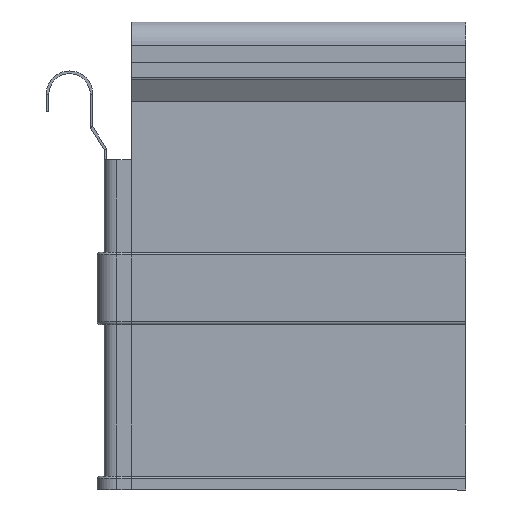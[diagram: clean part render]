
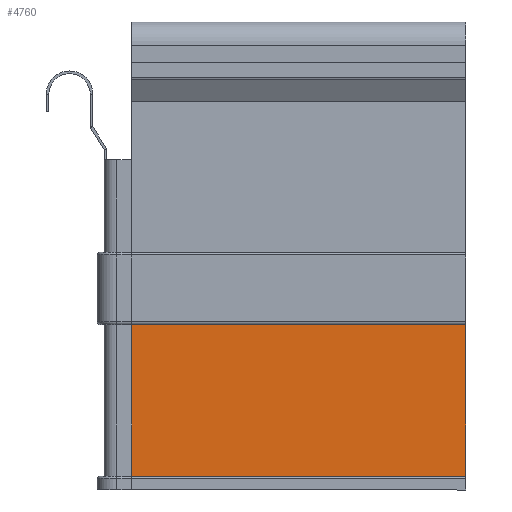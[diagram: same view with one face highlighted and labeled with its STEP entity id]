
A CAD part, left-side view. The second image highlights one B-rep face of the part: STEP entity #4760.
In plain terms, the highlighted planar face has unit normal (-1, 0, 0).
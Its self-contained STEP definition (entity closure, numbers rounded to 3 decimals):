
#189 = FACE_OUTER_BOUND ( 'NONE', #2913, .T. ) ;
#506 = CARTESIAN_POINT ( 'NONE',  ( 10., 0., -125. ) ) ;
#639 = EDGE_CURVE ( 'NONE', #2384, #2395, #1300, .T. ) ;
#836 = EDGE_CURVE ( 'NONE', #2395, #2368, #1463, .T. ) ;
#914 = EDGE_CURVE ( 'NONE', #1287, #2368, #3611, .T. ) ;
#1053 = EDGE_CURVE ( 'NONE', #2384, #1287, #3349, .T. ) ;
#1287 = VERTEX_POINT ( 'NONE', #4182 ) ;
#1294 = VECTOR ( 'NONE', #2322, 1000. ) ;
#1299 = VECTOR ( 'NONE', #1891, 1000. ) ;
#1300 = LINE ( 'NONE', #506, #1294 ) ;
#1463 = LINE ( 'NONE', #1889, #1299 ) ;
#1562 = CARTESIAN_POINT ( 'NONE',  ( 10., 0., -81. ) ) ;
#1672 = DIRECTION ( 'NONE',  ( 0., 1., 0. ) ) ;
#1889 = CARTESIAN_POINT ( 'NONE',  ( 10., 97., -125. ) ) ;
#1891 = DIRECTION ( 'NONE',  ( 0., 0., 1. ) ) ;
#2116 = DIRECTION ( 'NONE',  ( 0., -1., 0. ) ) ;
#2128 = DIRECTION ( 'NONE',  ( -1., 0., 0. ) ) ;
#2129 = PLANE ( 'NONE',  #2993 ) ;
#2130 = CARTESIAN_POINT ( 'NONE',  ( 10., 0., -125. ) ) ;
#2322 = DIRECTION ( 'NONE',  ( 0., 1., 0. ) ) ;
#2368 = VERTEX_POINT ( 'NONE', #4135 ) ;
#2384 = VERTEX_POINT ( 'NONE', #4360 ) ;
#2395 = VERTEX_POINT ( 'NONE', #4356 ) ;
#2913 = EDGE_LOOP ( 'NONE', ( #4888, #4827, #3247, #3226 ) ) ;
#2993 = AXIS2_PLACEMENT_3D ( 'NONE', #2130, #2128, #2116 ) ;
#3226 = ORIENTED_EDGE ( 'NONE', *, *, #914, .T. ) ;
#3247 = ORIENTED_EDGE ( 'NONE', *, *, #1053, .T. ) ;
#3349 = LINE ( 'NONE', #4464, #3364 ) ;
#3364 = VECTOR ( 'NONE', #4463, 1000. ) ;
#3536 = VECTOR ( 'NONE', #1672, 1000. ) ;
#3611 = LINE ( 'NONE', #1562, #3536 ) ;
#4135 = CARTESIAN_POINT ( 'NONE',  ( 10., 97., -81. ) ) ;
#4182 = CARTESIAN_POINT ( 'NONE',  ( 10., 0., -81. ) ) ;
#4356 = CARTESIAN_POINT ( 'NONE',  ( 10., 97., -125. ) ) ;
#4360 = CARTESIAN_POINT ( 'NONE',  ( 10., 0., -125. ) ) ;
#4463 = DIRECTION ( 'NONE',  ( 0., 0., 1. ) ) ;
#4464 = CARTESIAN_POINT ( 'NONE',  ( 10., 0., -125. ) ) ;
#4760 = ADVANCED_FACE ( 'NONE', ( #189 ), #2129, .T. ) ;
#4827 = ORIENTED_EDGE ( 'NONE', *, *, #639, .F. ) ;
#4888 = ORIENTED_EDGE ( 'NONE', *, *, #836, .F. ) ;
